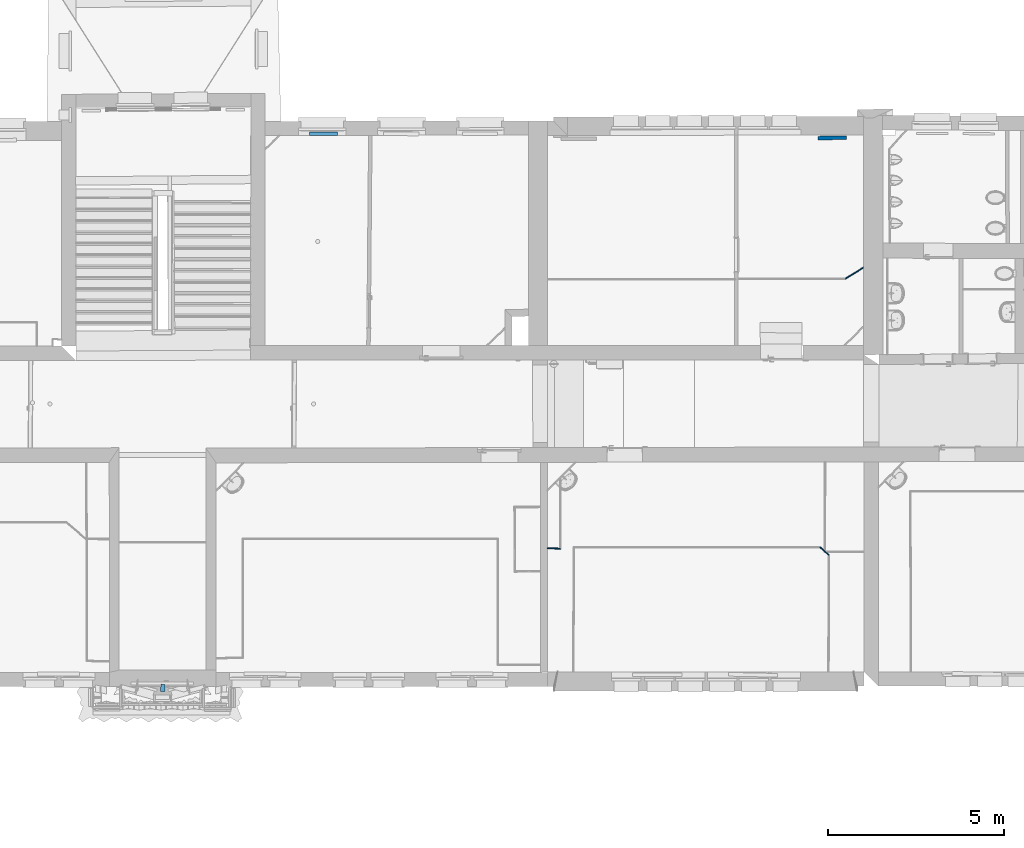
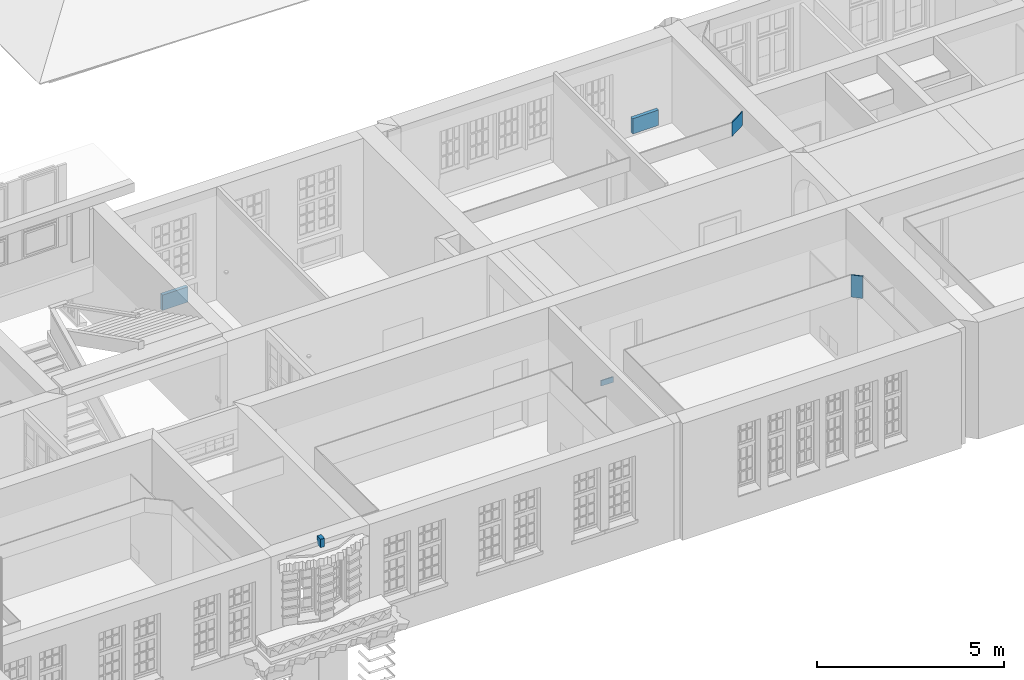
# One storey, part 50 of 158: 6 walls.
"""IFC2X3 building model written with IfcOpenShell, lengths in metres."""

from ifc_helpers import new_model, entity, si_unit, converted_unit, derived_unit, money_unit, direction, frame, origin_with_axes, place, context, subcontext, project, spatial, polyline, outline, extrude, material, layer, layer_set, layer_usage, type_object, element, save


model = new_model("IFC2X3")

# Units and contexts
model_context = context("Model", 3, precision=1e-05, world=origin_with_axes(), true_north=direction((0.0, 1.0)))
body_context = subcontext(model_context, "Body", "Model", "MODEL_VIEW")
ifc_project = project(units=[si_unit("LENGTHUNIT", "METRE"), si_unit("AREAUNIT", "SQUARE_METRE"), si_unit("VOLUMEUNIT", "CUBIC_METRE"), converted_unit("PLANEANGLEUNIT", "DEGREE", entity("IfcPlaneAngleMeasure", 0.0174532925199), si_unit("PLANEANGLEUNIT", "RADIAN"), dimensions=[0, 0, 0, 0, 0, 0, 0]), money_unit("EUR"), converted_unit("TIMEUNIT", "Year", entity("IfcTimeMeasure", 31556926.0), si_unit("TIMEUNIT", "SECOND"), dimensions=[0, 0, 1, 0, 0, 0, 0]), si_unit("MASSUNIT", "GRAM", prefix="KILO"), si_unit("THERMODYNAMICTEMPERATUREUNIT", "DEGREE_CELSIUS"), si_unit("LUMINOUSINTENSITYUNIT", "LUMEN"), si_unit("ENERGYUNIT", "JOULE", prefix="MEGA"), derived_unit("THERMALCONDUCTANCEUNIT", [(si_unit("POWERUNIT", "WATT"), 1), (si_unit("LENGTHUNIT", "METRE"), -1), (si_unit("THERMODYNAMICTEMPERATUREUNIT", "KELVIN"), -1)]), derived_unit("SPECIFICHEATCAPACITYUNIT", [(si_unit("ENERGYUNIT", "JOULE"), 1), (si_unit("MASSUNIT", "GRAM", prefix="KILO"), -1), (si_unit("THERMODYNAMICTEMPERATUREUNIT", "KELVIN"), -1)]), derived_unit("MASSDENSITYUNIT", [(si_unit("MASSUNIT", "GRAM", prefix="KILO"), 1), (si_unit("VOLUMEUNIT", "CUBIC_METRE"), -1)])], contexts=[model_context])

# Site, building, storey
site_placement = place(None, origin_with_axes())
site = spatial("IfcSite", under=ifc_project, at=site_placement, Name="Gelände", CompositionType="ELEMENT")
building_placement = place(site_placement, origin_with_axes())
building = spatial("IfcBuilding", under=site, at=building_placement, Name="Gebäude", CompositionType="ELEMENT")
storey_placement = place(building_placement, origin_with_axes())
storey = spatial("IfcBuildingStorey", under=building, at=storey_placement, Name="ERDGESCHOSS", CompositionType="ELEMENT", Elevation=0.0)

# Walls
ifc_material_1 = material(Name="05_ALLGEMEIN - TRAGENDE BAUTEILE")
ifc_layer_1 = layer(ifc_material_1, 0.2, ventilated="UNKNOWN")
ifc_layer_set_1 = layer_set([ifc_layer_1], Name="05_ALLGEMEIN - TRAGENDE BAUTEILE 0.2")
ifc_layer_usage_1 = layer_usage(ifc_layer_set_1, "AXIS2", "NEGATIVE", 0.2)
wall_type_1 = type_object("IfcWallType", Name="05_ALLGEMEIN - TRAGENDE BAUTEILE 200", PredefinedType="ELEMENTEDWALL")
wall_1_placement = place(storey_placement, frame((-7.43626944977, 9.86388228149, 3.4728035), z_axis=(0.0, 0.0, 1.0), x_axis=(0.999064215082, -0.043251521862, 0.0)))
element("IfcWallStandardCase", 1, at=wall_1_placement, inside=storey, type_object=wall_type_1, material=ifc_layer_usage_1, Name="Wand-034", ObjectType="ELEMENTEDWALL", context=body_context, shape_type="SweptSolid", body=[
    extrude(outline(polyline([(0.0, 0.0), (0.120446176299, 0.0), (0.120446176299, 0.2), (0.0, 0.2), (0.0, 0.0)])), origin_with_axes(), (0.0, 0.0, 1.0), 0.275289),
])
ifc_material_2 = material(Name="43_Gipskarton")
ifc_layer_2 = layer(ifc_material_2, 0.03, ventilated="UNKNOWN")
ifc_layer_set_2 = layer_set([ifc_layer_2], Name="43_Gipskarton 0.03")
ifc_layer_usage_2 = layer_usage(ifc_layer_set_2, "AXIS2", "NEGATIVE", 0.0)
wall_type_2 = type_object("IfcWallType", Name="43_Gipskarton 30", PredefinedType="ELEMENTEDWALL")
wall_2_placement = place(storey_placement, frame((12.0277024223, 21.6072943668, 2.985), z_axis=(0.0, 0.0, 1.0), x_axis=(0.851432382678, 0.524464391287, 0.0)))
element("IfcWallStandardCase", 2, at=wall_2_placement, inside=storey, type_object=wall_type_2, material=ifc_layer_usage_2, Name="Wand-042", ObjectType="ELEMENTEDWALL", context=body_context, shape_type="SweptSolid", body=[
    extrude(outline(polyline([(-0.00847120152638, -0.03), (0.582876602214, -0.03), (0.601346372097, 0.0), (0.0, 0.0), (-0.00847120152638, -0.03)])), origin_with_axes(), (0.0, 0.0, 1.0), 0.4475),
])
ifc_layer_usage_3 = layer_usage(ifc_layer_set_2, "AXIS2", "NEGATIVE", 0.03)
wall_3_placement = place(storey_placement, frame((11.3000089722, 13.9444664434, 2.625), z_axis=(0.0, 0.0, 1.0), x_axis=(0.745213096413, -0.666826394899, 0.0)))
element("IfcWallStandardCase", 3, at=wall_3_placement, inside=storey, type_object=wall_type_2, material=ifc_layer_usage_3, Name="Wand-043", ObjectType="ELEMENTEDWALL", context=body_context, shape_type="SweptSolid", body=[
    extrude(outline(polyline([(0.0, 0.0), (0.319166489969, 0.0), (0.332618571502, 0.03), (-0.0114553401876, 0.03), (0.0, 0.0)])), origin_with_axes(), (0.0, 0.0, 1.0), 0.725),
])
ifc_layer_usage_4 = layer_usage(ifc_layer_set_2, "AXIS2", "NEGATIVE", 0.03)
wall_4_placement = place(storey_placement, frame((3.55607938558, 13.9099458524, 2.445), z_axis=(0.0, 0.0, 1.0), x_axis=(0.999884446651, -0.0152017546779, 0.0)))
element("IfcWallStandardCase", 4, at=wall_4_placement, inside=storey, type_object=wall_type_2, material=ifc_layer_usage_4, Name="Wand-046", ObjectType="ELEMENTEDWALL", context=body_context, shape_type="SweptSolid", body=[
    extrude(outline(polyline([(0.0, 0.0), (0.383232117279, 0.0), (0.352684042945, 0.03), (-0.00044863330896, 0.03), (0.0, 0.0)])), origin_with_axes(), (0.0, 0.0, 1.0), 0.18),
])
ifc_material_3 = material(Name="01_ALLGEMEIN - BAUTEIL")
ifc_layer_3 = layer(ifc_material_3, 0.105, ventilated="UNKNOWN")
ifc_layer_set_3 = layer_set([ifc_layer_3], Name="01_ALLGEMEIN - BAUTEIL 0.105")
ifc_layer_usage_5 = layer_usage(ifc_layer_set_3, "AXIS2", "NEGATIVE", 0.105)
wall_type_3 = type_object("IfcWallType", Name="01_ALLGEMEIN - BAUTEIL 105", PredefinedType="ELEMENTEDWALL")
wall_5_placement = place(storey_placement, frame((-3.20091309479, 25.6558641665, 0.160845), z_axis=(0.0, 0.0, 1.0), x_axis=(0.99999992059, 0.000398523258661, 0.0)))
element("IfcWallStandardCase", 5, at=wall_5_placement, inside=storey, type_object=wall_type_3, material=ifc_layer_usage_5, Name="Wand-036", ObjectType="ELEMENTEDWALL", context=body_context, shape_type="SweptSolid", body=[
    extrude(outline(polyline([(0.0, 0.0), (0.787298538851, 0.0), (0.787298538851, 0.105), (0.0, 0.105), (0.0, 0.0)])), origin_with_axes(), (0.0, 0.0, 1.0), 0.501014),
])
ifc_layer_usage_6 = layer_usage(ifc_layer_set_3, "AXIS2", "NEGATIVE", 0.105)
wall_6_placement = place(storey_placement, frame((11.2502417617, 25.53191509, 0.936186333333), z_axis=(0.0, 0.0, 1.0), x_axis=(0.999878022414, 0.0156185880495, 0.0)))
element("IfcWallStandardCase", 6, at=wall_6_placement, inside=storey, type_object=wall_type_3, material=ifc_layer_usage_6, Name="Wand-036", ObjectType="ELEMENTEDWALL", context=body_context, shape_type="SweptSolid", body=[
    extrude(outline(polyline([(0.0, 0.0), (0.807669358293, 0.0), (0.807669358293, 0.105), (0.0, 0.105), (0.0, 0.0)])), origin_with_axes(), (0.0, 0.0, 1.0), 0.501014),
])

save(model, "model.ifc")
